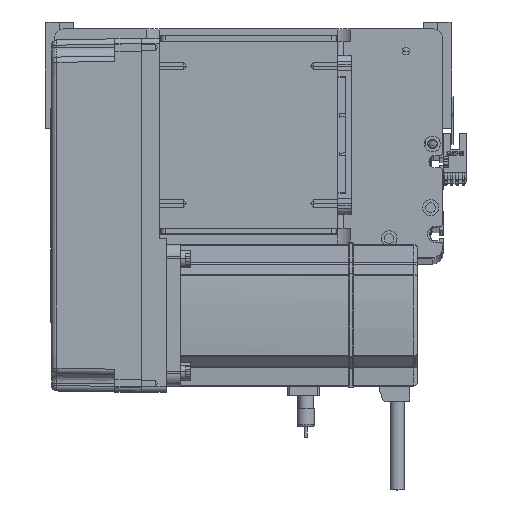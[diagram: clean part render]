
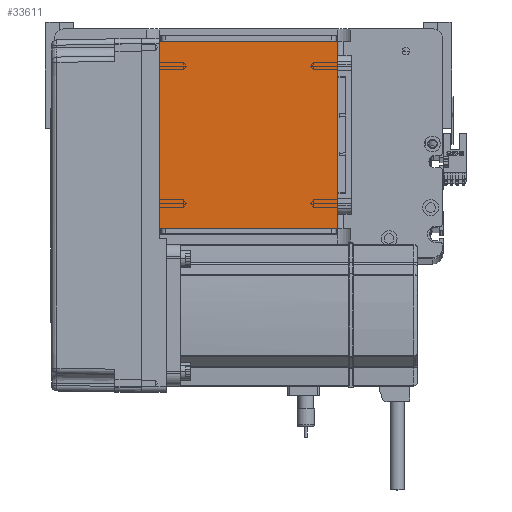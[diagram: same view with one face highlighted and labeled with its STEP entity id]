
A CAD part, top view. The second image highlights one B-rep face of the part: STEP entity #33611.
In plain terms, the highlighted planar face has unit normal (0, 0, 1).
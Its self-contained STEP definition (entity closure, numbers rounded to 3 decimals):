
#1039 = PLANE ( 'NONE',  #2699 ) ;
#2699 = AXIS2_PLACEMENT_3D ( 'NONE', #9369, #38642, #9538 ) ;
#5428 = VECTOR ( 'NONE', #41864, 1000. ) ;
#9369 = CARTESIAN_POINT ( 'NONE',  ( 0., 0., 115. ) ) ;
#9538 = DIRECTION ( 'NONE',  ( 1., 0., 0. ) ) ;
#12691 = LINE ( 'NONE', #37652, #42173 ) ;
#12798 = VERTEX_POINT ( 'NONE', #53112 ) ;
#14170 = CARTESIAN_POINT ( 'NONE',  ( -50.5, 16., 115. ) ) ;
#15251 = LINE ( 'NONE', #23988, #30969 ) ;
#17001 = EDGE_CURVE ( 'NONE', #24913, #12798, #15251, .T. ) ;
#17907 = LINE ( 'NONE', #48136, #40164 ) ;
#21381 = DIRECTION ( 'NONE',  ( 0., -1., 0. ) ) ;
#21505 = ORIENTED_EDGE ( 'NONE', *, *, #17001, .T. ) ;
#21540 = ORIENTED_EDGE ( 'NONE', *, *, #28962, .T. ) ;
#22296 = ORIENTED_EDGE ( 'NONE', *, *, #29189, .T. ) ;
#23988 = CARTESIAN_POINT ( 'NONE',  ( -50.5, 122., 115. ) ) ;
#24913 = VERTEX_POINT ( 'NONE', #30923 ) ;
#25278 = EDGE_CURVE ( 'NONE', #26471, #36039, #12691, .T. ) ;
#26471 = VERTEX_POINT ( 'NONE', #14170 ) ;
#28373 = DIRECTION ( 'NONE',  ( -1., 0., 0. ) ) ;
#28962 = EDGE_CURVE ( 'NONE', #12798, #26471, #17907, .T. ) ;
#29189 = EDGE_CURVE ( 'NONE', #36039, #24913, #44087, .T. ) ;
#30923 = CARTESIAN_POINT ( 'NONE',  ( 50.5, 122., 115. ) ) ;
#30969 = VECTOR ( 'NONE', #28373, 1000. ) ;
#32064 = ORIENTED_EDGE ( 'NONE', *, *, #25278, .T. ) ;
#33611 = ADVANCED_FACE ( 'NONE', ( #53397 ), #1039, .T. ) ;
#35445 = CARTESIAN_POINT ( 'NONE',  ( 50.5, 16., 115. ) ) ;
#36039 = VERTEX_POINT ( 'NONE', #35445 ) ;
#37652 = CARTESIAN_POINT ( 'NONE',  ( -50.5, 16., 115. ) ) ;
#38030 = DIRECTION ( 'NONE',  ( 1., 0., 0. ) ) ;
#38642 = DIRECTION ( 'NONE',  ( 0., 0., 1. ) ) ;
#40164 = VECTOR ( 'NONE', #21381, 1000. ) ;
#41864 = DIRECTION ( 'NONE',  ( 0., 1., 0. ) ) ;
#42173 = VECTOR ( 'NONE', #38030, 1000. ) ;
#44087 = LINE ( 'NONE', #49583, #5428 ) ;
#48136 = CARTESIAN_POINT ( 'NONE',  ( -50.5, 122., 115. ) ) ;
#49583 = CARTESIAN_POINT ( 'NONE',  ( 50.5, 122., 115. ) ) ;
#49987 = EDGE_LOOP ( 'NONE', ( #21540, #32064, #22296, #21505 ) ) ;
#53112 = CARTESIAN_POINT ( 'NONE',  ( -50.5, 122., 115. ) ) ;
#53397 = FACE_OUTER_BOUND ( 'NONE', #49987, .T. ) ;
